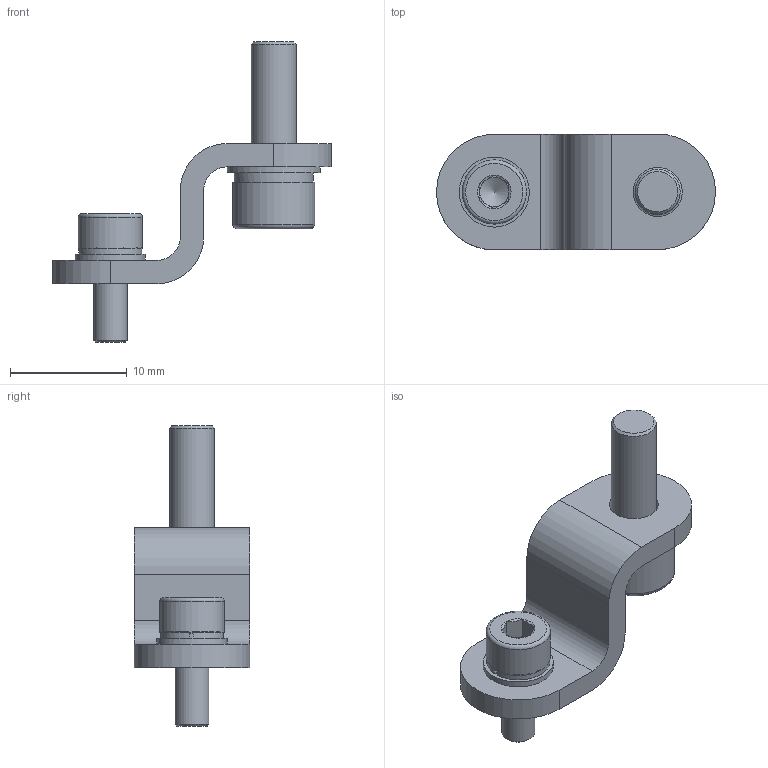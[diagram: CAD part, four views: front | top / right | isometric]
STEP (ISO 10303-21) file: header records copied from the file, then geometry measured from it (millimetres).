
FILE_DESCRIPTION(/* description */ (''),/* implementation_level */ '2;1');
FILE_NAME(/* name */ 'ZJ-CZ.stp',/* time_stamp */ '2024-08-08T14:18:15+08:00',/* author */ (''),/* organization */ (''),/* preprocessor_version */ 'ST-DEVELOPER v14',/* originating_system */ 'SIEMENS PLM Software NX 8.0',/* authorisation */ '');
FILE_SCHEMA (('AUTOMOTIVE_DESIGN { 1 0 10303 214 3 1 1 1 }'));
Length unit declared in the file: millimetre
Products named in the file (7): GB-T848-2002,M4; GB-T70.1-2000,M4x12; GB859-87,4; GB-T70.1-2000,M3x8; GB859-87,3; GB-T848-2002,M3; ZJ-CZ
Assembly tree (6 placements, depth 2):
  ZJ-CZ
    GB-T848-2002,M3
    GB859-87,3
    GB-T70.1-2000,M3x8
    GB859-87,4
    GB-T70.1-2000,M4x12
    GB-T848-2002,M4
Bounding box: 23.9 x 9.9 x 25.7 mm (x, y, z)
Volume: 956.4 mm3; surface area: 1499.6 mm2
Topology: 7 solids, 7 shells, 90 faces, 178 edges, 104 vertices
Faces by surface type: plane 50, cylinder 20, cone 16, torus 4
Full cylindrical faces by diameter (mm): 2.874 x1, 3.2 x1, 3.838 x1, 4.2 x2, 4.3 x1, 5.5 x1, 6 x1, 7 x1, 8 x1
Entity records: 2433 total; most frequent: CARTESIAN_POINT 431, DIRECTION 418, ORIENTED_EDGE 316, AXIS2_PLACEMENT_3D 175, EDGE_CURVE 158, EDGE_LOOP 118, VERTEX_POINT 104, ADVANCED_FACE 90
